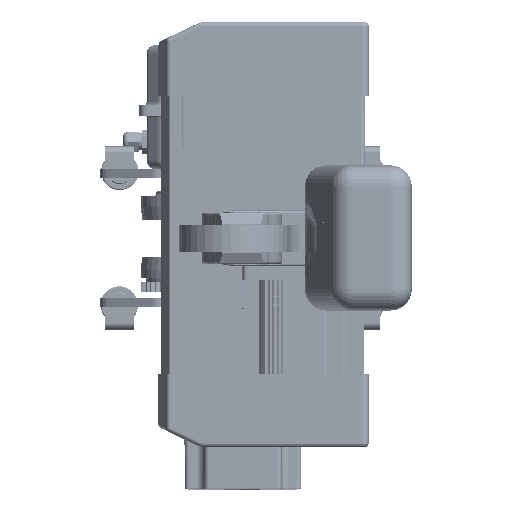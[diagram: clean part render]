
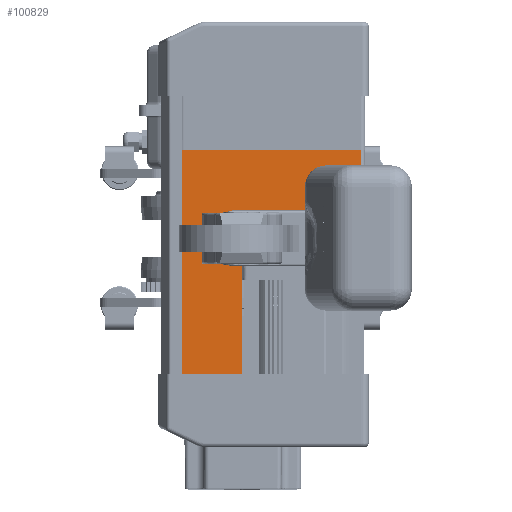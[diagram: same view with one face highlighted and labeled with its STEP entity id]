
A CAD part, front view. The second image highlights one B-rep face of the part: STEP entity #100829.
In plain terms, the highlighted planar face has unit normal (0, -1, 0).
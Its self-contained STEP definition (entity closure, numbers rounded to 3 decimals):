
#4565=B_SPLINE_CURVE_WITH_KNOTS('',3,(#183051,#183052,#183053,#183054),
 .UNSPECIFIED.,.F.,.F.,(4,4),(0.,0.986),.UNSPECIFIED.);
#4566=B_SPLINE_CURVE_WITH_KNOTS('',3,(#183066,#183067,#183068,#183069),
 .UNSPECIFIED.,.F.,.F.,(4,4),(0.356,1.),.UNSPECIFIED.);
#28894=ORIENTED_EDGE('',*,*,#50262,.T.);
#28895=ORIENTED_EDGE('',*,*,#50263,.T.);
#28896=ORIENTED_EDGE('',*,*,#50264,.F.);
#28897=ORIENTED_EDGE('',*,*,#50229,.T.);
#28898=ORIENTED_EDGE('',*,*,#50265,.T.);
#28899=ORIENTED_EDGE('',*,*,#50266,.T.);
#28900=ORIENTED_EDGE('',*,*,#50267,.T.);
#28901=ORIENTED_EDGE('',*,*,#50268,.T.);
#50229=EDGE_CURVE('',#62095,#62094,#70116,.T.);
#50262=EDGE_CURVE('',#62125,#62126,#4565,.T.);
#50263=EDGE_CURVE('',#62126,#62127,#70146,.T.);
#50264=EDGE_CURVE('',#62095,#62127,#70147,.F.);
#50265=EDGE_CURVE('',#62094,#62128,#70148,.T.);
#50266=EDGE_CURVE('',#62128,#62129,#70149,.T.);
#50267=EDGE_CURVE('',#62129,#62130,#70150,.T.);
#50268=EDGE_CURVE('',#62130,#62125,#4566,.T.);
#62094=VERTEX_POINT('',#182975);
#62095=VERTEX_POINT('',#182977);
#62125=VERTEX_POINT('',#183055);
#62126=VERTEX_POINT('',#183056);
#62127=VERTEX_POINT('',#183058);
#62128=VERTEX_POINT('',#183061);
#62129=VERTEX_POINT('',#183063);
#62130=VERTEX_POINT('',#183065);
#70116=LINE('',#182976,#77539);
#70146=LINE('',#183057,#77569);
#70147=LINE('',#183059,#77570);
#70148=LINE('',#183060,#77571);
#70149=LINE('',#183062,#77572);
#70150=LINE('',#183064,#77573);
#77539=VECTOR('',#128201,1000.);
#77569=VECTOR('',#128237,1000.);
#77570=VECTOR('',#128238,1000.);
#77571=VECTOR('',#128239,1000.);
#77572=VECTOR('',#128240,1000.);
#77573=VECTOR('',#128241,1000.);
#84872=EDGE_LOOP('',(#28894,#28895,#28896,#28897,#28898,#28899,#28900,#28901));
#92046=FACE_BOUND('',#84872,.T.);
#96251=PLANE('',#109194);
#100829=ADVANCED_FACE('',(#92046),#96251,.T.);
#109194=AXIS2_PLACEMENT_3D('',#183050,#128235,#128236);
#128201=DIRECTION('',(0.,0.,-1.));
#128235=DIRECTION('',(0.,-1.,0.));
#128236=DIRECTION('',(1.,0.,0.));
#128237=DIRECTION('',(0.,0.,1.));
#128238=DIRECTION('',(-1.,0.,0.));
#128239=DIRECTION('',(1.,0.,0.));
#128240=DIRECTION('',(0.,0.,1.));
#128241=DIRECTION('',(1.,0.,0.));
#182975=CARTESIAN_POINT('',(-139.392,-738.742,123.427));
#182976=CARTESIAN_POINT('',(-139.392,-738.742,359.427));
#182977=CARTESIAN_POINT('',(-139.392,-738.742,378.927));
#183050=CARTESIAN_POINT('',(63.,-738.742,227.427));
#183051=CARTESIAN_POINT('',(65.,-738.742,245.927));
#183052=CARTESIAN_POINT('',(65.,-738.742,280.927));
#183053=CARTESIAN_POINT('',(65.,-738.742,315.927));
#183054=CARTESIAN_POINT('',(65.,-738.742,350.927));
#183055=CARTESIAN_POINT('',(65.,-738.742,245.927));
#183056=CARTESIAN_POINT('',(65.,-738.742,350.927));
#183057=CARTESIAN_POINT('',(65.,-738.742,227.427));
#183058=CARTESIAN_POINT('',(65.,-738.742,378.927));
#183059=CARTESIAN_POINT('',(-137.,-738.742,378.927));
#183060=CARTESIAN_POINT('',(63.,-738.742,123.427));
#183061=CARTESIAN_POINT('',(-70.,-738.742,123.427));
#183062=CARTESIAN_POINT('',(-70.,-738.742,227.427));
#183063=CARTESIAN_POINT('',(-70.,-738.742,245.927));
#183064=CARTESIAN_POINT('',(63.,-738.742,245.927));
#183065=CARTESIAN_POINT('',(-65.001,-738.742,245.927));
#183066=CARTESIAN_POINT('',(-65.001,-738.742,245.927));
#183067=CARTESIAN_POINT('',(-21.667,-738.742,245.927));
#183068=CARTESIAN_POINT('',(21.666,-738.742,245.927));
#183069=CARTESIAN_POINT('',(65.,-738.742,245.927));
